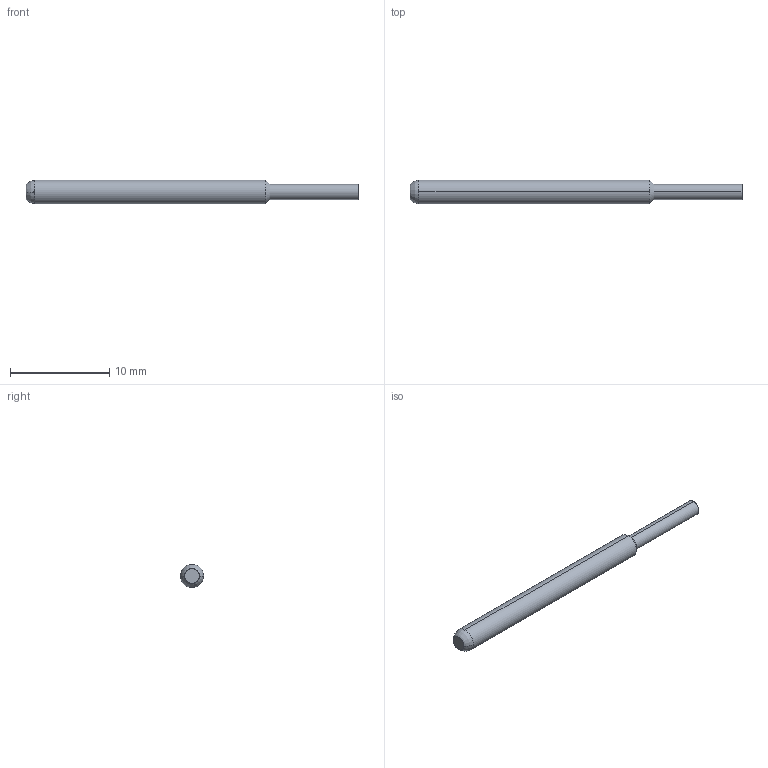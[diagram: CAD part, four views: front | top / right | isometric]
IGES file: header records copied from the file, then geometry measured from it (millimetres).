
Start section: SolidWorks IGES file using analytic representation for surfaces
Global section: file name: Z:\probe solid model mockups\Solidworks models\IGES Files\EPA-4 IGES files\EPA-4C.IGS; native system: SolidWorks 2006 by SolidWorks Corporation; preprocessor: SolidWorks 2006 by SolidWorks Corporation; author: tsakatani; date: 080103.104144; units: inch
Bounding box: 33.53 x 2.36 x 2.36 mm (x, y, z)
Surface area: 229.6 mm2 (no closed solid volume)
Topology: 0 solids, 0 shells, 10 faces, 68 edges, 68 vertices
Faces by surface type: revolution 8, bspline 2
